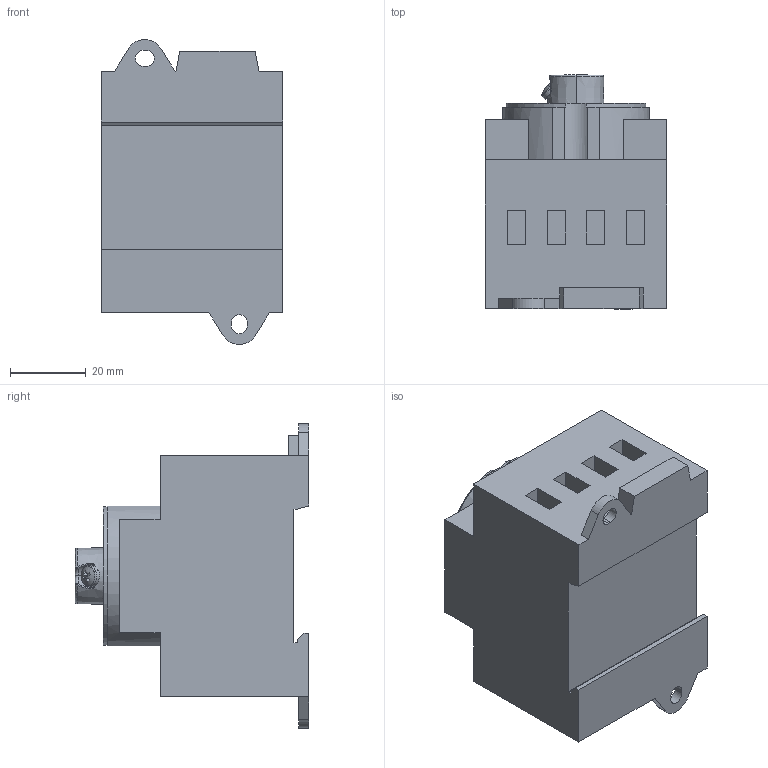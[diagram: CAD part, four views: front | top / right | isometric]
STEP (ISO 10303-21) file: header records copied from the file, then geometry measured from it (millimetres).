
FILE_DESCRIPTION (( 'STEP AP203' ), '1' );
FILE_NAME ('LTS20_25_32_40 VZV A4U.STEP', '2014-05-07T12:24:01', ( 'edv' ), ( '' ), 'SwSTEP 2.0', 'SolidWorks 2014', '' );
FILE_SCHEMA (( 'CONFIG_CONTROL_DESIGN' ));
Length unit declared in the file: millimetre
Products named in the file (4): LTS25; 8184; LTS20_25_32_40 VZV A4U; 2406_27_2406 27
Assembly tree (3 placements, depth 2):
  LTS20_25_32_40 VZV A4U
    LTS25
    8184
    2406_27_2406 27
Bounding box: 48 x 61.9 x 80.8 mm (x, y, z)
Volume: 130785.2 mm3; surface area: 24808.4 mm2
Topology: 3 solids, 3 shells, 217 faces, 555 edges, 359 vertices
Faces by surface type: plane 140, cylinder 42, cone 21, bspline 11, torus 3
Entity records: 7260 total; most frequent: CARTESIAN_POINT 1645, ORIENTED_EDGE 1102, DIRECTION 1047, EDGE_CURVE 551, VERTEX_POINT 359, LINE 351, VECTOR 351, AXIS2_PLACEMENT_3D 348
